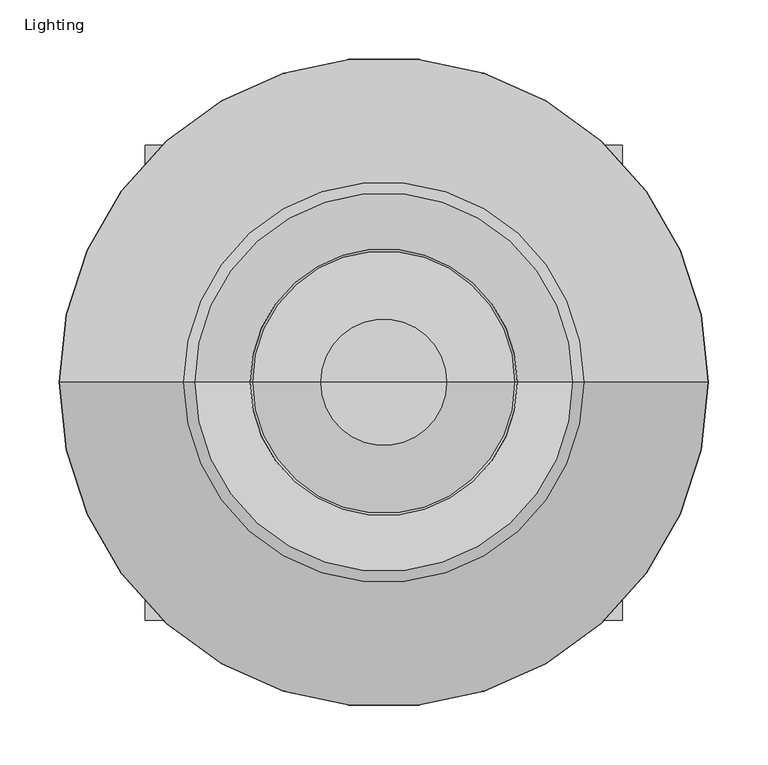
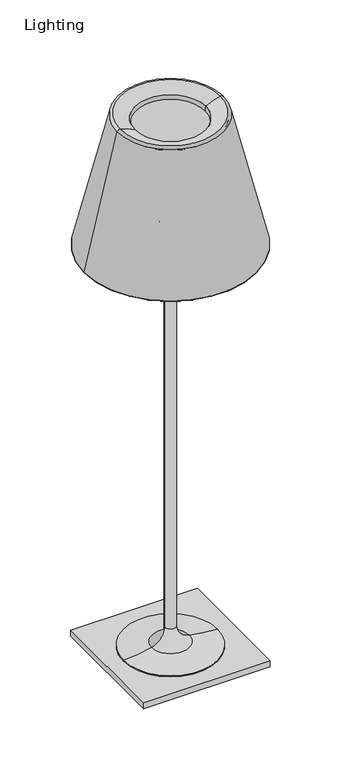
"""IFC4 building model written with IfcOpenShell, lengths in millimetres: furniture geometry, Flos - Ktribe F3 (1) : Lighting."""

from ifc_helpers import new_model, si_unit, point, frame, frame_2d, origin, origin_with_axes, place, context, project, spatial, polyline, circle_curve, ellipse_curve, trimmed, segment, composite_curve, outline, extrude, source, transform, mapped, element, save
from ifc_brep_helpers import plane_surface, cylinder_surface, revolved_surface, advanced_brep


def lighting_54dd1ebd(model_context):
    return source(origin(), model_context, "Body", "SolidModel", [
        advanced_brep(
        [(-200.7856433, 345.7919098, 1830.0309705), (-521.4821733, 345.7919098, 1830.0309705), (-530.6263425, 345.7919098, 1824.2954603), (-191.6414741, 345.7919098, 1824.2954603), (-248.05831, 345.7919098, 1811.9798047), (-474.2095065, 345.7919098, 1811.9798047), (-249.1179375, 345.7919098, 1796.4593005), (-473.149879, 345.7919098, 1796.4593005), (-196.994907, 345.7919098, 1796.4593005), (-525.2729096, 345.7919098, 1796.4593005), (-96.195398, 345.7919098, 1385.7990924), (-626.0724186, 345.7919098, 1385.7990924), (-86.8789024, 345.7919098, 1385.7990924), (-635.3889142, 345.7919098, 1385.7990924), (-86.1620585, 345.7919098, 1386.7092621), (-636.105758, 345.7919098, 1386.7092621)],
        [
            (0, 1, circle_curve(frame((-361.1339083, 345.7919098, 1830.0309705), z_axis=(0.0, 0.0, -1.0), x_axis=(-1.0, 0.0, 0.0)), 160.348265)),
            (1, 2, circle_curve(frame((-523.1207125, 345.7919098, 1822.4862409), z_axis=(0.0, -1.0, 0.0), x_axis=(-1.0, 0.0, 0.0)), 7.7206059)),
            (2, 3, circle_curve(frame((-361.1339083, 345.7919098, 1824.2954603), z_axis=(0.0, 0.0, 1.0), x_axis=(-1.0, 0.0, 0.0)), 169.4924342)),
            (3, 0, circle_curve(frame((-199.147104, 345.7919098, 1822.4862409), z_axis=(0.0, -1.0, 0.0), x_axis=(1.0, 0.0, 0.0)), 7.7206059)),
            (1, 0, circle_curve(frame((-361.1339083, 345.7919098, 1830.0309705), z_axis=(0.0, 0.0, -1.0), x_axis=(-1.0, 0.0, 0.0)), 160.348265)),
            (3, 2, circle_curve(frame((-361.1339083, 345.7919098, 1824.2954603), z_axis=(0.0, 0.0, 1.0), x_axis=(-1.0, 0.0, 0.0)), 169.4924342)),
            (4, 5, circle_curve(frame((-361.1339083, 345.7919098, 1811.9798047), z_axis=(0.0, 0.0, -1.0), x_axis=(-1.0, 0.0, 0.0)), 113.0755983)),
            (5, 1, circle_curve(frame((-557.1993833, 345.7919098, 1665.5694281), z_axis=(0.0, -1.0, 0.0), x_axis=(-1.0, 0.0, 0.0)), 168.2953298)),
            (0, 4, circle_curve(frame((-165.0684332, 345.7919098, 1665.5694281), z_axis=(0.0, -1.0, 0.0), x_axis=(1.0, 0.0, 0.0)), 168.2953298)),
            (5, 4, circle_curve(frame((-361.1339083, 345.7919098, 1811.9798047), z_axis=(0.0, 0.0, -1.0), x_axis=(-1.0, 0.0, 0.0)), 113.0755983)),
            (6, 7, circle_curve(frame((-361.1339083, 345.7919098, 1796.4593005), z_axis=(0.0, 0.0, -1.0), x_axis=(-1.0, 0.0, 0.0)), 112.0159708)),
            (7, 5, circle_curve(frame((-495.7515863, 345.7919098, 1802.7126437), z_axis=(0.0, -1.0, 0.0), x_axis=(-1.0, 0.0, 0.0)), 23.4508309)),
            (4, 6, circle_curve(frame((-226.5162303, 345.7919098, 1802.7126437), z_axis=(0.0, -1.0, 0.0), x_axis=(1.0, 0.0, 0.0)), 23.4508309)),
            (7, 6, circle_curve(frame((-361.1339083, 345.7919098, 1796.4593005), z_axis=(0.0, 0.0, -1.0), x_axis=(-1.0, 0.0, 0.0)), 112.0159708)),
            (8, 9, circle_curve(frame((-361.1339083, 345.7919098, 1796.4593005), z_axis=(0.0, 0.0, -1.0), x_axis=(-1.0, 0.0, 0.0)), 164.1390013)),
            (9, 7),
            (6, 8),
            (9, 8, circle_curve(frame((-361.1339083, 345.7919098, 1796.4593005), z_axis=(0.0, 0.0, -1.0), x_axis=(-1.0, 0.0, 0.0)), 164.1390013)),
            (10, 11, circle_curve(frame((-361.1339083, 345.7919098, 1385.7990924), z_axis=(0.0, 0.0, -1.0), x_axis=(-1.0, 0.0, 0.0)), 264.9385103)),
            (11, 9),
            (8, 10),
            (11, 10, circle_curve(frame((-361.1339083, 345.7919098, 1385.7990924), z_axis=(0.0, 0.0, -1.0), x_axis=(-1.0, 0.0, 0.0)), 264.9385103)),
            (12, 13, circle_curve(frame((-361.1339083, 345.7919098, 1385.7990924), z_axis=(0.0, 0.0, -1.0), x_axis=(-1.0, 0.0, 0.0)), 274.2550059)),
            (13, 11),
            (10, 12),
            (13, 12, circle_curve(frame((-361.1339083, 345.7919098, 1385.7990924), z_axis=(0.0, 0.0, -1.0), x_axis=(-1.0, 0.0, 0.0)), 274.2550059)),
            (14, 15, circle_curve(frame((-361.1339083, 345.7919098, 1386.7092621), z_axis=(0.0, 0.0, -1.0), x_axis=(-1.0, 0.0, 0.0)), 274.9718498)),
            (15, 13, circle_curve(frame((-635.3889142, 345.7919098, 1386.5364681), z_axis=(0.0, -1.0, 0.0), x_axis=(-1.0, 0.0, 0.0)), 0.7373757)),
            (12, 14, circle_curve(frame((-86.8789024, 345.7919098, 1386.5364681), z_axis=(0.0, -1.0, 0.0), x_axis=(1.0, 0.0, 0.0)), 0.7373757)),
            (15, 14, circle_curve(frame((-361.1339083, 345.7919098, 1386.7092621), z_axis=(0.0, 0.0, -1.0), x_axis=(-1.0, 0.0, 0.0)), 274.9718498)),
            (2, 15),
            (14, 3),
        ],
        [
            revolved_surface(trimmed(ellipse_curve(frame((-523.1207125, 345.7919098, 1822.4862409), z_axis=(0.0, 1.0, 0.0), x_axis=(-1.0, 0.0, 0.0)), 7.7206059, 7.7206059), [point((-530.6263425, 345.7919098, 1824.2954603))], [point((-521.4821733, 345.7919098, 1830.0309705))], True, "CARTESIAN"), (-361.1339083, 345.7919098, 1941.5800746), (0.0, 0.0, 1.0)),
            revolved_surface(trimmed(ellipse_curve(frame((-557.1993833, 345.7919098, 1665.5694281), z_axis=(0.0, 1.0, 0.0), x_axis=(-1.0, 0.0, 0.0)), 168.2953298, 168.2953298), [point((-521.4821733, 345.7919098, 1830.0309705))], [point((-474.2095065, 345.7919098, 1811.9798047))], True, "CARTESIAN"), (-361.1339083, 345.7919098, 1941.5800746), (0.0, 0.0, 1.0)),
            revolved_surface(trimmed(ellipse_curve(frame((-495.7515863, 345.7919098, 1802.7126437), z_axis=(0.0, 1.0, 0.0), x_axis=(-1.0, 0.0, 0.0)), 23.4508309, 23.4508309), [point((-474.2095065, 345.7919098, 1811.9798047))], [point((-473.149879, 345.7919098, 1796.4593005))], True, "CARTESIAN"), (-361.1339083, 345.7919098, 1941.5800746), (0.0, 0.0, 1.0)),
            plane_surface(frame((-361.1339083, 345.7919098, 1796.4593005), z_axis=(0.0, 0.0, -1.0), x_axis=(-1.0, 0.0, 0.0))),
            revolved_surface(polyline([(-525.2729096, 345.7919098, 1796.4593005), (-626.0724186, 345.7919098, 1385.7990924)]), (-361.1339083, 345.7919098, 1941.5800746), (0.0, 0.0, 1.0)),
            plane_surface(frame((-361.1339083, 345.7919098, 1385.7990924), z_axis=(0.0, 0.0, -1.0), x_axis=(-1.0, 0.0, 0.0))),
            revolved_surface(trimmed(ellipse_curve(frame((-635.3889142, 345.7919098, 1386.5364681), z_axis=(0.0, 1.0, 0.0), x_axis=(-1.0, 0.0, 0.0)), 0.7373757, 0.7373757), [point((-635.3889142, 345.7919098, 1385.7990924))], [point((-636.105758, 345.7919098, 1386.7092621))], True, "CARTESIAN"), (-361.1339083, 345.7919098, 1941.5800746), (0.0, 0.0, 1.0)),
            revolved_surface(polyline([(-636.105758, 345.7919098, 1386.7092621), (-530.6263425, 345.7919098, 1824.2954603)]), (-361.1339083, 345.7919098, 1941.5800746), (0.0, 0.0, 1.0)),
        ],
        [
            (0, [[1, 2, 3, 4]]),
            (0, [[5, -4, 6, -2]]),
            (1, [[7, 8, -1, 9]]),
            (1, [[10, -9, -5, -8]]),
            (2, [[11, 12, -7, 13]]),
            (2, [[14, -13, -10, -12]]),
            (3, [[15, 16, -11, 17]]),
            (3, [[18, -17, -14, -16]]),
            (4, [[19, 20, -15, 21]]),
            (4, [[22, -21, -18, -20]]),
            (5, [[23, 24, -19, 25]]),
            (5, [[26, -25, -22, -24]]),
            (6, [[27, 28, -23, 29]]),
            (6, [[30, -29, -26, -28]]),
            (7, [[-3, 31, -27, 32]]),
            (7, [[-6, -32, -30, -31]]),
        ],
    ),
        advanced_brep(
        [(-491.0028076, 345.7919098, 1589.1497192), (-231.265009, 345.7919098, 1589.1497192), (-192.9518347, 345.7919098, 1817.5661905), (-529.3159818, 345.7919098, 1817.5661905), (-422.1391267, 345.7919098, 1500.5815129), (-300.1286898, 345.7919098, 1500.5815129), (-361.1339083, 345.7919098, 1500.5815129), (-413.5309284, 345.7919098, 1503.5815129), (-308.7368881, 345.7919098, 1503.5815129), (-361.1339083, 345.7919098, 1503.5815129), (-484.33494, 345.7919098, 1591.2803394), (-237.9328765, 345.7919098, 1591.2803394), (-522.3148539, 345.7919098, 1817.598629), (-199.9529627, 345.7919098, 1817.598629), (-523.0146647, 345.7919098, 1818.2823536), (-199.2531519, 345.7919098, 1818.2823536), (-528.6161685, 345.7919098, 1818.2823536), (-193.6516481, 345.7919098, 1818.2823536)],
        [
            (0, 1, circle_curve(frame((-361.1339083, 345.7919098, 1589.1497192), z_axis=(0.0, 0.0, 1.0), x_axis=(1.0, 0.0, 0.0)), 129.8688993)),
            (1, 2, circle_curve(frame((-1004.784009, 345.7919098, 1836.3164833), z_axis=(0.0, -1.0, 0.0), x_axis=(-1.0, 0.0, 0.0)), 812.0486763)),
            (2, 3, circle_curve(frame((-361.1339083, 345.7919098, 1817.5661905), z_axis=(0.0, 0.0, -1.0), x_axis=(1.0, 0.0, 0.0)), 168.1820736)),
            (3, 0, circle_curve(frame((282.5161925, 345.7919098, 1836.3164833), z_axis=(0.0, -1.0, 0.0), x_axis=(1.0, 0.0, 0.0)), 812.0486763)),
            (1, 0, circle_curve(frame((-361.1339083, 345.7919098, 1589.1497192), z_axis=(0.0, 0.0, 1.0), x_axis=(1.0, 0.0, 0.0)), 129.8688993)),
            (3, 2, circle_curve(frame((-361.1339083, 345.7919098, 1817.5661905), z_axis=(0.0, 0.0, -1.0), x_axis=(1.0, 0.0, 0.0)), 168.1820736)),
            (4, 5, circle_curve(frame((-361.1339083, 345.7919098, 1500.5815129), z_axis=(0.0, 0.0, 1.0), x_axis=(1.0, 0.0, 0.0)), 61.0052184)),
            (5, 1, circle_curve(frame((-386.4129856, 345.7919098, 1638.7250022), z_axis=(0.0, -1.0, 0.0), x_axis=(-1.0, 0.0, 0.0)), 162.8760367)),
            (0, 4, circle_curve(frame((-335.8548309, 345.7919098, 1638.7250022), z_axis=(0.0, -1.0, 0.0), x_axis=(1.0, 0.0, 0.0)), 162.8760367)),
            (5, 4, circle_curve(frame((-361.1339083, 345.7919098, 1500.5815129), z_axis=(0.0, 0.0, 1.0), x_axis=(1.0, 0.0, 0.0)), 61.0052184)),
            (6, 5),
            (4, 6),
            (7, 8, circle_curve(frame((-361.1339083, 345.7919098, 1503.5815129), z_axis=(0.0, 0.0, 1.0), x_axis=(1.0, 0.0, 0.0)), 52.3970201)),
            (8, 9),
            (9, 7),
            (8, 7, circle_curve(frame((-361.1339083, 345.7919098, 1503.5815129), z_axis=(0.0, 0.0, 1.0), x_axis=(1.0, 0.0, 0.0)), 52.3970201)),
            (10, 11, circle_curve(frame((-361.1339083, 345.7919098, 1591.2803394), z_axis=(0.0, 0.0, 1.0), x_axis=(1.0, 0.0, 0.0)), 123.2010318)),
            (11, 8, circle_curve(frame((-386.4129856, 345.7919098, 1638.7250022), z_axis=(0.0, 1.0, 0.0), x_axis=(-1.0, 0.0, 0.0)), 155.8760367)),
            (7, 10, circle_curve(frame((-335.8548309, 345.7919098, 1638.7250022), z_axis=(0.0, 1.0, 0.0), x_axis=(1.0, 0.0, 0.0)), 155.8760367)),
            (11, 10, circle_curve(frame((-361.1339083, 345.7919098, 1591.2803394), z_axis=(0.0, 0.0, 1.0), x_axis=(1.0, 0.0, 0.0)), 123.2010318)),
            (12, 13, circle_curve(frame((-361.1339083, 345.7919098, 1817.598629), z_axis=(0.0, 0.0, 1.0), x_axis=(1.0, 0.0, 0.0)), 161.1809456)),
            (13, 11, circle_curve(frame((-1004.784009, 345.7919098, 1836.3164833), z_axis=(0.0, 1.0, 0.0), x_axis=(-1.0, 0.0, 0.0)), 805.0486763)),
            (10, 12, circle_curve(frame((282.5161925, 345.7919098, 1836.3164833), z_axis=(0.0, 1.0, 0.0), x_axis=(1.0, 0.0, 0.0)), 805.0486763)),
            (13, 12, circle_curve(frame((-361.1339083, 345.7919098, 1817.598629), z_axis=(0.0, 0.0, 1.0), x_axis=(1.0, 0.0, 0.0)), 161.1809456)),
            (14, 15, circle_curve(frame((-361.1339083, 345.7919098, 1818.2823536), z_axis=(0.0, 0.0, 1.0), x_axis=(1.0, 0.0, 0.0)), 161.8807564)),
            (15, 13, circle_curve(frame((-199.2531519, 345.7919098, 1817.5823536), z_axis=(0.0, -1.0, 0.0), x_axis=(-1.0, 0.0, 0.0)), 0.7)),
            (12, 14, circle_curve(frame((-523.0146647, 345.7919098, 1817.5823536), z_axis=(0.0, -1.0, 0.0), x_axis=(1.0, 0.0, 0.0)), 0.7)),
            (15, 14, circle_curve(frame((-361.1339083, 345.7919098, 1818.2823536), z_axis=(0.0, 0.0, 1.0), x_axis=(1.0, 0.0, 0.0)), 161.8807564)),
            (16, 17, circle_curve(frame((-361.1339083, 345.7919098, 1818.2823536), z_axis=(0.0, 0.0, 1.0), x_axis=(1.0, 0.0, 0.0)), 167.4822602)),
            (17, 15),
            (14, 16),
            (17, 16, circle_curve(frame((-361.1339083, 345.7919098, 1818.2823536), z_axis=(0.0, 0.0, 1.0), x_axis=(1.0, 0.0, 0.0)), 167.4822602)),
            (2, 17, circle_curve(frame((-193.6516481, 345.7919098, 1817.5823536), z_axis=(0.0, -1.0, 0.0), x_axis=(-1.0, 0.0, 0.0)), 0.7)),
            (16, 3, circle_curve(frame((-528.6161685, 345.7919098, 1817.5823536), z_axis=(0.0, -1.0, 0.0), x_axis=(1.0, 0.0, 0.0)), 0.7)),
        ],
        [
            revolved_surface(trimmed(ellipse_curve(frame((-1004.784009, 345.7919098, 1836.3164833), z_axis=(0.0, 1.0, 0.0), x_axis=(-1.0, 0.0, 0.0)), 812.0486763, 812.0486763), [point((-192.9518347, 345.7919098, 1817.5661905))], [point((-231.265009, 345.7919098, 1589.1497192))], True, "CARTESIAN"), (-361.1339083, 345.7919098, 2056.5800746), (0.0, 0.0, -1.0)),
            revolved_surface(trimmed(ellipse_curve(frame((-386.4129856, 345.7919098, 1638.7250022), z_axis=(0.0, 1.0, 0.0), x_axis=(-1.0, 0.0, 0.0)), 162.8760367, 162.8760367), [point((-231.265009, 345.7919098, 1589.1497192))], [point((-300.1286898, 345.7919098, 1500.5815129))], True, "CARTESIAN"), (-361.1339083, 345.7919098, 2056.5800746), (0.0, 0.0, -1.0)),
            plane_surface(frame((-361.1339083, 345.7919098, 1500.5815129), z_axis=(0.0, 0.0, -1.0), x_axis=(1.0, 0.0, 0.0))),
            plane_surface(frame((-361.1339083, 345.7919098, 1503.5815129), z_axis=(0.0, 0.0, 1.0), x_axis=(1.0, 0.0, 0.0))),
            revolved_surface(trimmed(ellipse_curve(frame((-386.4129856, 345.7919098, 1638.7250022), z_axis=(0.0, -1.0, 0.0), x_axis=(-1.0, 0.0, 0.0)), 155.8760367, 155.8760367), [point((-308.7368881, 345.7919098, 1503.5815129))], [point((-237.9328765, 345.7919098, 1591.2803394))], True, "CARTESIAN"), (-361.1339083, 345.7919098, 2056.5800746), (0.0, 0.0, -1.0)),
            revolved_surface(trimmed(ellipse_curve(frame((-1004.784009, 345.7919098, 1836.3164833), z_axis=(0.0, -1.0, 0.0), x_axis=(-1.0, 0.0, 0.0)), 805.0486763, 805.0486763), [point((-237.9328765, 345.7919098, 1591.2803394))], [point((-199.9529627, 345.7919098, 1817.598629))], True, "CARTESIAN"), (-361.1339083, 345.7919098, 2056.5800746), (0.0, 0.0, -1.0)),
            revolved_surface(trimmed(ellipse_curve(frame((-199.2531519, 345.7919098, 1817.5823536), z_axis=(0.0, 1.0, 0.0), x_axis=(-1.0, 0.0, 0.0)), 0.7, 0.7), [point((-199.9529627, 345.7919098, 1817.598629))], [point((-199.2531519, 345.7919098, 1818.2823536))], True, "CARTESIAN"), (-361.1339083, 345.7919098, 2056.5800746), (0.0, 0.0, -1.0)),
            plane_surface(frame((-361.1339083, 345.7919098, 1818.2823536), z_axis=(0.0, 0.0, 1.0), x_axis=(1.0, 0.0, 0.0))),
            revolved_surface(trimmed(ellipse_curve(frame((-193.6516481, 345.7919098, 1817.5823536), z_axis=(0.0, 1.0, 0.0), x_axis=(-1.0, 0.0, 0.0)), 0.7, 0.7), [point((-193.6516481, 345.7919098, 1818.2823536))], [point((-192.9518347, 345.7919098, 1817.5661905))], True, "CARTESIAN"), (-361.1339083, 345.7919098, 2056.5800746), (0.0, 0.0, -1.0)),
        ],
        [
            (0, [[1, 2, 3, 4]]),
            (0, [[5, -4, 6, -2]]),
            (1, [[7, 8, -1, 9]]),
            (1, [[10, -9, -5, -8]]),
            (2, [[11, -7, 12]]),
            (2, [[-12, -10, -11]]),
            (3, [[13, 14, 15]]),
            (3, [[16, -15, -14]]),
            (4, [[17, 18, -13, 19]]),
            (4, [[20, -19, -16, -18]]),
            (5, [[21, 22, -17, 23]]),
            (5, [[24, -23, -20, -22]]),
            (6, [[25, 26, -21, 27]]),
            (6, [[28, -27, -24, -26]]),
            (7, [[29, 30, -25, 31]]),
            (7, [[32, -31, -28, -30]]),
            (8, [[-3, 33, -29, 34]]),
            (8, [[-6, -34, -32, -33]]),
        ],
    ),
        advanced_brep(
        [(-563.081273, 144.826182, 13.0563192), (-563.081273, 546.7576377, 13.0563192), (-159.1865435, 546.7576377, 13.0563192), (-159.1865435, 144.826182, 13.0563192), (-563.081273, 144.826182, 33.1570192), (-159.1865435, 144.826182, 33.1570192), (-159.1865435, 546.7576377, 33.1570192), (-563.081273, 546.7576377, 33.1570192), (-210.9617188, 345.7919098, 33.1570192), (-511.3060977, 345.7919098, 33.1570192), (-429.8657889, 345.7919098, 1504.8248555), (-292.4020276, 345.7919098, 1504.8248555), (-361.1339083, 345.7919098, 1504.8248555), (-378.3174824, 345.7919098, 101.0370577), (-343.9503342, 345.7919098, 101.0370577), (-343.9503342, 345.7919098, 1415.5405696), (-378.3174824, 345.7919098, 1415.5405696), (-420.5283742, 345.7919098, 47.5446404), (-301.7394423, 345.7919098, 47.5446404), (-511.3060977, 345.7919098, 35.82658), (-210.9617188, 345.7919098, 35.82658)],
        [
            (0, 1),
            (1, 2),
            (2, 3),
            (3, 0),
            (4, 5),
            (5, 6),
            (6, 7),
            (7, 4),
            (8, 9, circle_curve(frame((-361.1339083, 345.7919098, 33.1570192), z_axis=(0.0, 0.0, -1.0), x_axis=(1.0, 0.0, 0.0)), 150.1721894)),
            (9, 8, circle_curve(frame((-361.1339083, 345.7919098, 33.1570192), z_axis=(0.0, 0.0, -1.0), x_axis=(1.0, 0.0, 0.0)), 150.1721894)),
            (3, 5),
            (4, 0),
            (1, 7),
            (6, 2),
            (10, 11, circle_curve(frame((-361.1339083, 345.7919098, 1504.8248555), z_axis=(0.0, 0.0, 1.0), x_axis=(1.0, 0.0, 0.0)), 68.7318806)),
            (11, 12),
            (12, 10),
            (11, 10, circle_curve(frame((-361.1339083, 345.7919098, 1504.8248555), z_axis=(0.0, 0.0, 1.0), x_axis=(1.0, 0.0, 0.0)), 68.7318806)),
            (13, 14, circle_curve(frame((-361.1339083, 345.7919098, 101.0370577), z_axis=(0.0, 0.0, 1.0), x_axis=(1.0, 0.0, 0.0)), 17.1835741)),
            (14, 15),
            (15, 16, circle_curve(frame((-361.1339083, 345.7919098, 1415.5405696), z_axis=(0.0, 0.0, -1.0), x_axis=(1.0, 0.0, 0.0)), 17.1835741)),
            (16, 13),
            (14, 13, circle_curve(frame((-361.1339083, 345.7919098, 101.0370577), z_axis=(0.0, 0.0, 1.0), x_axis=(1.0, 0.0, 0.0)), 17.1835741)),
            (16, 15, circle_curve(frame((-361.1339083, 345.7919098, 1415.5405696), z_axis=(0.0, 0.0, -1.0), x_axis=(1.0, 0.0, 0.0)), 17.1835741)),
            (10, 16, circle_curve(frame((-481.4140954, 345.7919098, 1415.5405696), z_axis=(0.0, 1.0, 0.0), x_axis=(1.0, 0.0, 0.0)), 103.096613)),
            (15, 11, circle_curve(frame((-240.8537211, 345.7919098, 1415.5405696), z_axis=(0.0, 1.0, 0.0), x_axis=(-1.0, 0.0, 0.0)), 103.096613)),
            (13, 17, circle_curve(frame((-433.3174824, 345.7919098, 101.0370577), z_axis=(0.0, 1.0, 0.0), x_axis=(1.0, 0.0, 0.0)), 55.0)),
            (17, 18, circle_curve(frame((-361.1339083, 345.7919098, 47.5446404), z_axis=(0.0, 0.0, 1.0), x_axis=(1.0, 0.0, 0.0)), 59.394466)),
            (18, 14, circle_curve(frame((-288.9503342, 345.7919098, 101.0370577), z_axis=(0.0, 1.0, 0.0), x_axis=(-1.0, 0.0, 0.0)), 55.0)),
            (18, 17, circle_curve(frame((-361.1339083, 345.7919098, 47.5446404), z_axis=(0.0, 0.0, 1.0), x_axis=(1.0, 0.0, 0.0)), 59.394466)),
            (17, 19, circle_curve(frame((-520.8262583, 345.7919098, 467.0560105), z_axis=(0.0, 1.0, 0.0), x_axis=(1.0, 0.0, 0.0)), 431.334505)),
            (19, 20, circle_curve(frame((-361.1339083, 345.7919098, 35.82658), z_axis=(0.0, 0.0, 1.0), x_axis=(1.0, 0.0, 0.0)), 150.1721894)),
            (20, 18, circle_curve(frame((-201.4415582, 345.7919098, 467.0560105), z_axis=(0.0, 1.0, 0.0), x_axis=(-1.0, 0.0, 0.0)), 431.334505)),
            (20, 19, circle_curve(frame((-361.1339083, 345.7919098, 35.82658), z_axis=(0.0, 0.0, 1.0), x_axis=(1.0, 0.0, 0.0)), 150.1721894)),
            (19, 9),
            (8, 20),
        ],
        [
            plane_surface(frame((-585.2984782, 144.826182, 13.0563192), z_axis=(0.0, 0.0, -1.0), x_axis=(-1.0, 0.0, 0.0))),
            plane_surface(frame((-585.2984782, 144.826182, 33.1570192), z_axis=(0.0, 0.0, 1.0), x_axis=(1.0, 0.0, 0.0))),
            plane_surface(frame((-563.081273, 144.826182, 33.1570192), z_axis=(0.0, -1.0, 0.0), x_axis=(0.0, 0.0, -1.0))),
            plane_surface(frame((-159.1865435, 546.7576377, 33.1570192), z_axis=(0.0, 1.0, 0.0), x_axis=(0.0, 0.0, -1.0))),
            plane_surface(frame((-563.081273, 546.7576377, 33.1570192), z_axis=(-1.0, 0.0, 0.0), x_axis=(0.0, 0.0, -1.0))),
            plane_surface(frame((-361.1339083, 345.7919098, 1504.8248555), z_axis=(0.0, 0.0, 1.0), x_axis=(1.0, 0.0, 0.0))),
            cylinder_surface(frame((-361.1339083, 345.7919098, 1917.5), z_axis=(0.0, 0.0, -1.0), x_axis=(1.0, 0.0, 0.0)), 17.1835741),
            revolved_surface(trimmed(ellipse_curve(frame((-240.8537211, 345.7919098, 1415.5405696), z_axis=(0.0, -1.0, 0.0), x_axis=(-1.0, 0.0, 0.0)), 103.096613, 103.096613), [point((-292.4020276, 345.7919098, 1504.8248555))], [point((-343.9503342, 345.7919098, 1415.5405696))], True, "CARTESIAN"), (-361.1339083, 345.7919098, 1917.5), (0.0, 0.0, -1.0)),
            plane_surface(frame((-159.1865435, 144.826182, 33.1570192), z_axis=(1.0, 0.0, 0.0), x_axis=(0.0, 0.0, -1.0))),
            revolved_surface(trimmed(ellipse_curve(frame((-288.9503342, 345.7919098, 101.0370577), z_axis=(0.0, -1.0, 0.0), x_axis=(-1.0, 0.0, 0.0)), 55.0, 55.0), [point((-343.9503342, 345.7919098, 101.0370577))], [point((-301.7394423, 345.7919098, 47.5446404))], True, "CARTESIAN"), (-361.1339083, 345.7919098, 1917.5), (0.0, 0.0, -1.0)),
            revolved_surface(trimmed(ellipse_curve(frame((-201.4415582, 345.7919098, 467.0560105), z_axis=(0.0, -1.0, 0.0), x_axis=(-1.0, 0.0, 0.0)), 431.334505, 431.334505), [point((-301.7394423, 345.7919098, 47.5446404))], [point((-210.9617188, 345.7919098, 35.82658))], True, "CARTESIAN"), (-361.1339083, 345.7919098, 1917.5), (0.0, 0.0, -1.0)),
            cylinder_surface(frame((-361.1339083, 345.7919098, 1917.5), z_axis=(0.0, 0.0, -1.0), x_axis=(1.0, 0.0, 0.0)), 150.1721894),
        ],
        [
            (0, [[1, 2, 3, 4]]),
            (1, [[5, 6, 7, 8], [9, 10]]),
            (2, [[-4, 11, -5, 12]]),
            (3, [[-2, 13, -7, 14]]),
            (4, [[-1, -12, -8, -13]]),
            (5, [[15, 16, 17]]),
            (5, [[-16, 18, -17]]),
            (6, [[19, 20, 21, 22]]),
            (6, [[-20, 23, -22, 24]]),
            (7, [[-15, 25, -21, 26]]),
            (7, [[-18, -26, -24, -25]]),
            (8, [[-3, -14, -6, -11]]),
            (9, [[-19, 27, 28, 29]]),
            (9, [[-23, -29, 30, -27]]),
            (10, [[-28, 31, 32, 33]]),
            (10, [[-30, -33, 34, -31]]),
            (11, [[-32, 35, -9, 36]]),
            (11, [[-34, -36, -10, -35]]),
        ],
    ),
        extrude(outline(composite_curve([segment(trimmed(circle_curve(frame_2d((-524.1761841, 509.7091397)), 12.1339718), [point((-536.3101559, 509.7091397))], [point((-512.0422123, 509.7091397))], False, "CARTESIAN"), True, "CONTINUOUS"), segment(trimmed(circle_curve(frame_2d((-524.1761841, 509.7091397)), 12.1339718), [point((-512.0422123, 509.7091397))], [point((-536.3101559, 509.7091397))], False, "CARTESIAN"), True, "CONTINUOUS")], self_intersect=False)), origin_with_axes(), (0.0, 0.0, 1.0), 13.0563192),
        extrude(outline(composite_curve([segment(trimmed(circle_curve(frame_2d((-198.0916325, 509.7091397)), 12.1339718), [point((-210.2256043, 509.7091397))], [point((-185.9576607, 509.7091397))], False, "CARTESIAN"), True, "CONTINUOUS"), segment(trimmed(circle_curve(frame_2d((-198.0916325, 509.7091397)), 12.1339718), [point((-185.9576607, 509.7091397))], [point((-210.2256043, 509.7091397))], False, "CARTESIAN"), True, "CONTINUOUS")], self_intersect=False)), origin_with_axes(), (0.0, 0.0, 1.0), 13.0563192),
        extrude(outline(composite_curve([segment(trimmed(circle_curve(frame_2d((-524.1761841, 181.87468)), 12.1339718), [point((-536.3101559, 181.87468))], [point((-512.0422123, 181.87468))], False, "CARTESIAN"), True, "CONTINUOUS"), segment(trimmed(circle_curve(frame_2d((-524.1761841, 181.87468)), 12.1339718), [point((-512.0422123, 181.87468))], [point((-536.3101559, 181.87468))], False, "CARTESIAN"), True, "CONTINUOUS")], self_intersect=False)), origin_with_axes(), (0.0, 0.0, 1.0), 13.0563192),
        extrude(outline(composite_curve([segment(trimmed(circle_curve(frame_2d((-198.0916325, 181.87468)), 12.1339718), [point((-210.2256043, 181.87468))], [point((-185.9576607, 181.87468))], False, "CARTESIAN"), True, "CONTINUOUS"), segment(trimmed(circle_curve(frame_2d((-198.0916325, 181.87468)), 12.1339718), [point((-185.9576607, 181.87468))], [point((-210.2256043, 181.87468))], False, "CARTESIAN"), True, "CONTINUOUS")], self_intersect=False)), origin_with_axes(), (0.0, 0.0, 1.0), 13.0563192),
    ])


if __name__ == "__main__":
    model = new_model("IFC4")
    model_context = context("Model", 3, world=origin())
    ifc_project = project(units=[si_unit("LENGTHUNIT", "METRE", prefix="MILLI")], contexts=[model_context])
    site = spatial("IfcSite", under=ifc_project)
    building = spatial("IfcBuilding", under=site)
    placement = place(None, origin())
    lighting_shape = lighting_54dd1ebd(model_context)
    element("IfcFurniture", 1, ObjectType="Flos - Ktribe F3 (1) : Lighting", at=placement, inside=building, context=model_context, shape_type="MappedRepresentation", body=[
        mapped(lighting_shape, transform((0.0, 0.0, 0.0), x_axis=(1.0, 0.0, 0.0), y_axis=(0.0, 1.0, 0.0), z_axis=(0.0, 0.0, 1.0))),
    ])
    save(model, "model.ifc")
